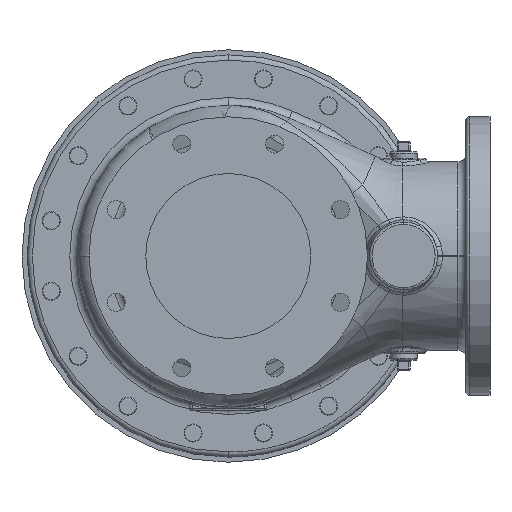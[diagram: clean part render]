
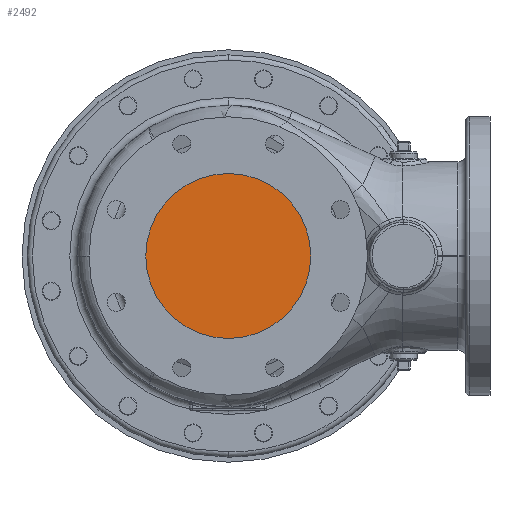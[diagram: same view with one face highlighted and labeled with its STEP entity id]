
A CAD part, front view. The second image highlights one B-rep face of the part: STEP entity #2492.
In plain terms, the highlighted planar face has unit normal (0, -1, 0).
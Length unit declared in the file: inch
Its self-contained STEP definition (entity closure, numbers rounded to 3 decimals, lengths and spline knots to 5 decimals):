
#277 = DIRECTION ( 'NONE',  ( 0., 0., 1. ) ) ;
#2308 = VERTEX_POINT ( 'NONE', #7346 ) ;
#2492 = ADVANCED_FACE ( 'NONE', ( #13656 ), #25816, .F. ) ;
#3164 = EDGE_CURVE ( 'NONE', #2308, #20503, #26989, .T. ) ;
#3789 = DIRECTION ( 'NONE',  ( 0., -1., 0. ) ) ;
#4948 = AXIS2_PLACEMENT_3D ( 'NONE', #17970, #5217, #20094 ) ;
#5217 = DIRECTION ( 'NONE',  ( 0., -1., 0. ) ) ;
#6602 = CARTESIAN_POINT ( 'NONE',  ( 0., -6.5, 0. ) ) ;
#7346 = CARTESIAN_POINT ( 'NONE',  ( 0., -6.5, 4.06516 ) ) ;
#7447 = AXIS2_PLACEMENT_3D ( 'NONE', #6602, #13040, #277 ) ;
#7922 = AXIS2_PLACEMENT_3D ( 'NONE', #16546, #3789, #18682 ) ;
#13040 = DIRECTION ( 'NONE',  ( 0., 1., 0. ) ) ;
#13656 = FACE_OUTER_BOUND ( 'NONE', #27188, .T. ) ;
#14323 = ORIENTED_EDGE ( 'NONE', *, *, #3164, .T. ) ;
#15052 = EDGE_CURVE ( 'NONE', #20503, #2308, #22483, .T. ) ;
#16380 = ORIENTED_EDGE ( 'NONE', *, *, #15052, .T. ) ;
#16546 = CARTESIAN_POINT ( 'NONE',  ( 0., -6.5, 0. ) ) ;
#17970 = CARTESIAN_POINT ( 'NONE',  ( 0., -6.5, 0. ) ) ;
#18682 = DIRECTION ( 'NONE',  ( 0., 0., -1. ) ) ;
#20094 = DIRECTION ( 'NONE',  ( 0., 0., -1. ) ) ;
#20503 = VERTEX_POINT ( 'NONE', #20899 ) ;
#20899 = CARTESIAN_POINT ( 'NONE',  ( 0., -6.5, -4.06516 ) ) ;
#22483 = CIRCLE ( 'NONE', #7922, 4.06516 ) ;
#25816 = PLANE ( 'NONE',  #7447 ) ;
#26989 = CIRCLE ( 'NONE', #4948, 4.06516 ) ;
#27188 = EDGE_LOOP ( 'NONE', ( #14323, #16380 ) ) ;
